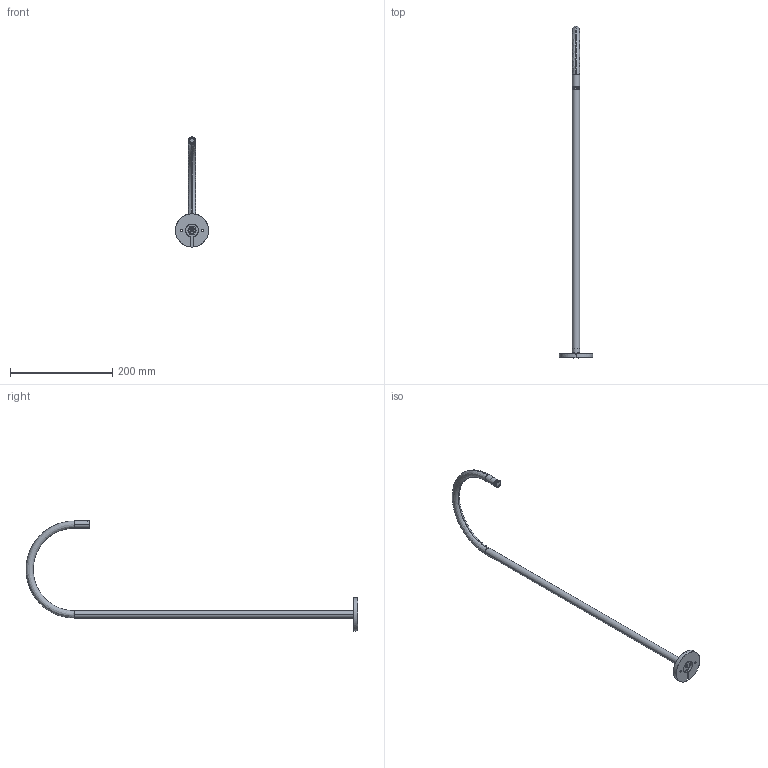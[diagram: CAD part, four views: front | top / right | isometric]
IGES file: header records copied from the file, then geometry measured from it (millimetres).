
Start section: SolidWorks IGES file using analytic representation for surfaces
Global section: file name: L:\Tecnico_PMT\R&D\PROGETTI ROADMAP 2025\TWIG - FP\studi\TWIG_Assieme\TWIG 65.IGS; native system: SolidWorks 2016; preprocessor: SolidWorks 2016; author: MarcoErbaNemo; date: 260427.141530; units: millimetre
Bounding box: 65 x 649.94 x 215.5 mm (x, y, z)
Surface area: 75321.7 mm2 (no closed solid volume)
Topology: 0 solids, 0 shells, 102 faces, 1690 edges, 1690 vertices
Faces by surface type: revolution 71, bspline 31
